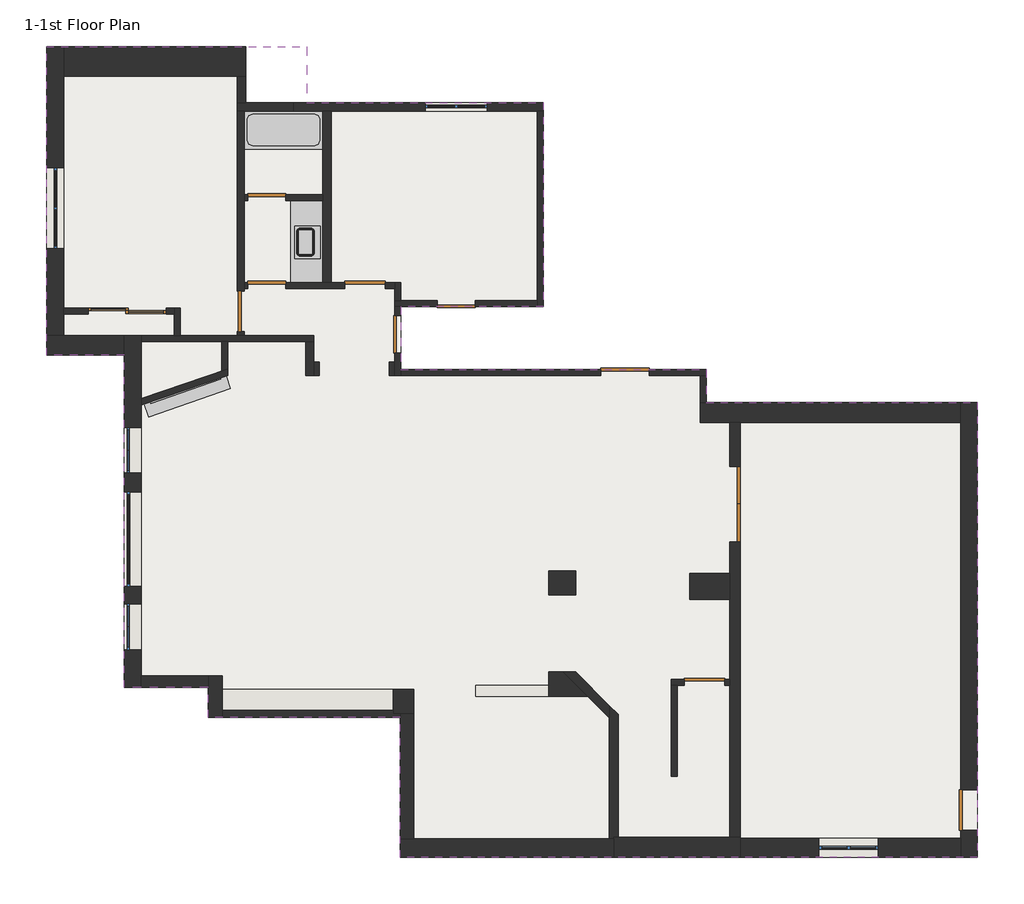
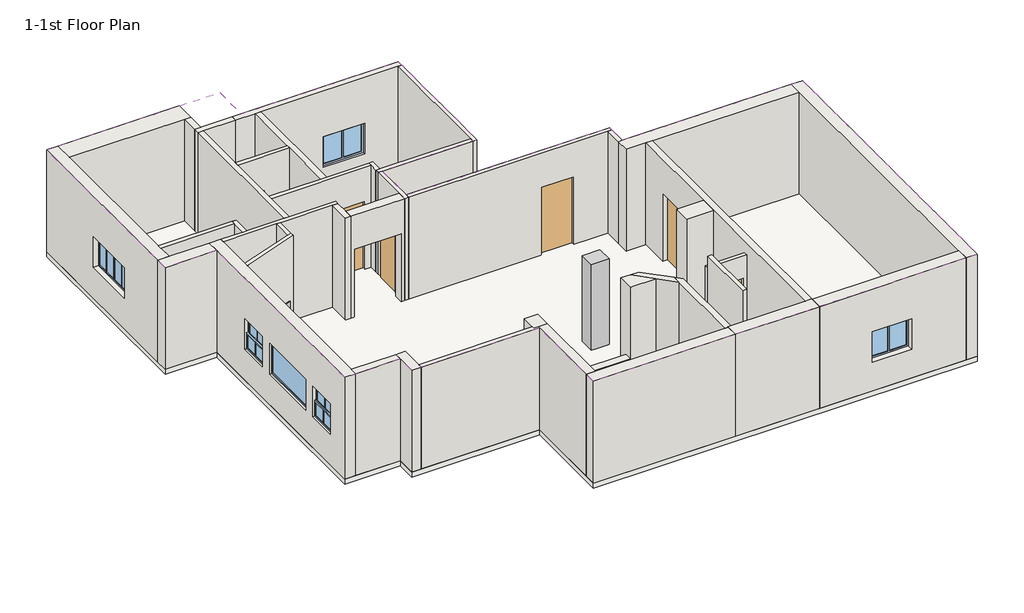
# One storey, incomplete: 43 walls, 11 doors, 6 windows, 2 flow terminals, 1 column, 1 covering, 1 furniture element, 1 proxy, 1 slab.
"""IFC4 building model written with IfcOpenShell, lengths in millimetres."""

from ifc_helpers import new_model, si_unit, frame, origin, origin_with_axes, place, context, project, spatial, polyline, outline, extrude, faceted_brep, transform, mapped, element, save
from components import generic_models_5_generic_models_5_6d1e31e7, columns_1_columns_1_5ad2784a, door_64bc458f, door_8a6e924b, door_ae451de5, door_2ad2c74c, door_949120a3, door_eaf6c470, door_1eac47e7, door_902f0b21, door_1fb80474, c_bathtub_c_bathtub_2_94195e66, c_kitchen_sink_single1_c_kitchen_sink_single_2_c5aafde7, window_c256d3ea, window_8184cf6b, window_6ee6a00c, window_1a2cd0af, window_898dd9ae, window_491ab510

model = new_model("IFC4")

# Units and contexts
model_context = context("Model", 3, world=origin())
ifc_project = project(units=[si_unit("LENGTHUNIT", "METRE", prefix="MILLI")], contexts=[model_context])

# Site, building, storey
site = spatial("IfcSite", under=ifc_project)
building = spatial("IfcBuilding", under=site)
storey = spatial("IfcBuildingStorey", under=building, Name="1-1st Floor Plan", Elevation=0.0)

# Proxy
placement = place(None, origin())
generic_models_5_generic_models_5_shape = generic_models_5_generic_models_5_6d1e31e7(model_context)
element("IfcBuildingElementProxy", 1, Name="Generic Models 5 : Generic Models 5", ObjectType="Generic Models 5 : Generic Models 5", at=placement, inside=storey, context=model_context, shape_type="MappedRepresentation", body=[
    mapped(generic_models_5_generic_models_5_shape, transform((0.0, 0.0, 0.0), x_axis=(1.0, 0.0, 0.0), y_axis=(0.0, 1.0, 0.0), z_axis=(0.0, 0.0, 1.0))),
])

# Column
columns_1_columns_1_shape = columns_1_columns_1_5ad2784a(model_context)
element("IfcColumn", 2, ObjectType="Columns 1 : Columns 1", at=placement, inside=storey, context=model_context, shape_type="MappedRepresentation", body=[
    mapped(columns_1_columns_1_shape, transform((0.0, 0.0, 0.0), x_axis=(1.0, 0.0, 0.0), y_axis=(0.0, 1.0, 0.0), z_axis=(0.0, 0.0, 1.0))),
])

# Covering
element("IfcCovering", 3, ObjectType="Ceiling_5.9\"", at=placement, inside=storey, context=model_context, shape_type="SweptSolid", body=[
    extrude(outline(polyline([(-6661.15, 9461.5), (-6661.15, 15278.1), (-1758.95, 15278.1), (-1758.95, 14224.0), (2692.4, 14224.0), (2692.4, 10375.9), (12.7, 10375.9), (12.7, 9194.8), (5765.8, 9194.8), (5765.8, 8572.5), (10871.2, 8572.5), (10871.2, 0.0), (0.0176056, 0.0), (0.0176056, 2641.6), (-3619.5, 2641.6), (-3619.5, 3200.4), (-5194.3, 3200.4), (-5194.3, 9461.5), (-6661.15, 9461.5)])), frame((0.0, 0.0, 3048.0), z_axis=(0.0, 0.0, 1.0), x_axis=(1.0, 0.0, 0.0)), (0.0, 0.0, 1.0), 150.0),
])

# Doors
door_shape = door_64bc458f(model_context)
element("IfcDoor", 4, ObjectType="Door_1 : 2'-4\" X 6'-8\"", at=placement, inside=storey, context=model_context, shape_type="MappedRepresentation", body=[
    mapped(door_shape, transform((-44.45, 9855.2, 0.0), x_axis=(0.0, -1.0, 0.0), y_axis=(1.0, 0.0, 0.0), z_axis=(0.0, 0.0, 1.0))),
])
element("IfcDoor", 5, ObjectType="Door_1 : 2'-4\" X 6'-8\"", at=placement, inside=storey, context=model_context, shape_type="MappedRepresentation", body=[
    mapped(door_shape, transform((-2514.6, 10775.95, 0.0), x_axis=(-1.0, 0.0, 0.0), y_axis=(0.0, -1.0, 0.0), z_axis=(0.0, 0.0, 1.0))),
])
element("IfcDoor", 6, ObjectType="Door_1 : 2'-4\" X 6'-8\"", at=placement, inside=storey, context=model_context, shape_type="MappedRepresentation", body=[
    mapped(door_shape, transform((-2514.6, 12426.95, 0.0), x_axis=(-1.0, 0.0, 0.0), y_axis=(0.0, -1.0, 0.0), z_axis=(0.0, 0.0, 1.0))),
])
door_2_shape = door_8a6e924b(model_context)
element("IfcDoor", 7, ObjectType="Door_1 : 2'-4\" X 6'-8\"", at=placement, inside=storey, context=model_context, shape_type="MappedRepresentation", body=[
    mapped(door_2_shape, transform((1054.1, 10433.05, 0.0), x_axis=(-1.0, 0.0, 0.0), y_axis=(0.0, -1.0, 0.0), z_axis=(0.0, 0.0, 1.0))),
])
door_3_shape = door_ae451de5(model_context)
element("IfcDoor", 8, ObjectType="Door_1 : 2'-6\" X 6'-8\"", at=placement, inside=storey, context=model_context, shape_type="MappedRepresentation", body=[
    mapped(door_3_shape, transform((5727.7, 3295.65, 0.0), x_axis=(1.0, 0.0, 0.0), y_axis=(0.0, 1.0, 0.0), z_axis=(0.0, 0.0, 1.0))),
])
door_4_shape = door_2ad2c74c(model_context)
element("IfcDoor", 9, ObjectType="Door_1 : 2'-6\" X 6'-8\"", at=placement, inside=storey, context=model_context, shape_type="MappedRepresentation", body=[
    mapped(door_4_shape, transform((-660.4, 10775.95, 0.0), x_axis=(-1.0, 0.0, 0.0), y_axis=(0.0, -1.0, 0.0), z_axis=(0.0, 0.0, 1.0))),
])
door_5_shape = door_949120a3(model_context)
element("IfcDoor", 10, ObjectType="Door_1 : 2'-6\" X 6'-8\"", at=placement, inside=storey, context=model_context, shape_type="MappedRepresentation", body=[
    mapped(door_5_shape, transform((10712.45, 889.0, 0.0), x_axis=(0.0, -1.0, 0.0), y_axis=(1.0, 0.0, 0.0), z_axis=(0.0, 0.0, 1.0))),
])
door_6_shape = door_eaf6c470(model_context)
element("IfcDoor", 11, ObjectType="Door_1 : 3'-0\" X 6'-8\"", at=placement, inside=storey, context=model_context, shape_type="MappedRepresentation", body=[
    mapped(door_6_shape, transform((4229.1, 9137.65, 0.0), x_axis=(1.0, 0.0, 0.0), y_axis=(0.0, 1.0, 0.0), z_axis=(0.0, 0.0, 1.0))),
])
door_7_shape = door_1eac47e7(model_context)
element("IfcDoor", 12, ObjectType="Door_2 : 4'-8\" X 6'-8\"", at=placement, inside=storey, context=model_context, shape_type="MappedRepresentation", body=[
    mapped(door_7_shape, transform((6305.55, 6654.8, 0.0), x_axis=(0.0, -1.0, 0.0), y_axis=(1.0, 0.0, 0.0), z_axis=(0.0, 0.0, 1.0))),
])
door_8_shape = door_902f0b21(model_context)
element("IfcDoor", 13, ObjectType="Door_3 : 4'-10\" X 6'-8\"", at=placement, inside=storey, context=model_context, shape_type="MappedRepresentation", body=[
    mapped(door_8_shape, transform((-5143.5, 10166.35, 0.0), x_axis=(1.0, 0.0, 0.0), y_axis=(0.0, 1.0, 0.0), z_axis=(0.0, 0.0, 1.0))),
])
door_9_shape = door_1fb80474(model_context)
element("IfcDoor", 14, ObjectType="Door_4 : 2'-6\" X 6'-8\"", at=placement, inside=storey, context=model_context, shape_type="MappedRepresentation", body=[
    mapped(door_9_shape, transform((-3006.725, 10287.0, 0.0), x_axis=(0.0, -1.0, 0.0), y_axis=(1.0, 0.0, 0.0), z_axis=(0.0, 0.0, 1.0))),
])

# Flow terminals
c_bathtub_c_bathtub_2_shape = c_bathtub_c_bathtub_2_94195e66(model_context)
element("IfcFlowTerminal", 15, ObjectType="C_Bathtub : C_Bathtub 2", at=placement, inside=storey, context=model_context, shape_type="MappedRepresentation", body=[
    mapped(c_bathtub_c_bathtub_2_shape, transform((-1460.5, 13347.7, 0.0), x_axis=(0.0, 1.0, 0.0), y_axis=(-1.0, 0.0, 0.0), z_axis=(0.0, 0.0, 1.0))),
])
c_kitchen_sink_single1_c_kitchen_sink_single_2_shape = c_kitchen_sink_single1_c_kitchen_sink_single_2_c5aafde7(model_context)
element("IfcFlowTerminal", 16, ObjectType="C_Kitchen Sink Single1 : C_Kitchen Sink Single 2", at=placement, inside=storey, context=model_context, shape_type="MappedRepresentation", body=[
    mapped(c_kitchen_sink_single1_c_kitchen_sink_single_2_shape, transform((-1748.5954011, 11388.5392406, 825.5), x_axis=(0.0, -1.0, 0.0), y_axis=(1.0, 0.0, 0.0), z_axis=(0.0, 0.0, 1.0))),
])

# Furniture
element("IfcFurniture", 17, ObjectType="C_Counter Top Linear (without skirting)1 : C_Counter Top Linear (without skirting) 2", at=placement, inside=storey, context=model_context, shape_type="SweptSolid", body=[
    extrude(outline(polyline([(-2057.4, 10833.1), (-2057.4, 12369.8), (-1460.5, 12369.8), (-1460.5, 10833.1), (-2057.4, 10833.1)]), holes=[polyline([(-1987.55, 11893.55), (-1987.55, 11283.95), (-1504.95, 11283.95), (-1504.95, 11893.55), (-1987.55, 11893.55)])]), frame((0.0, 0.0, 812.8), z_axis=(0.0, 0.0, 1.0), x_axis=(1.0, 0.0, 0.0)), (0.0, 0.0, 1.0), 25.4),
])

# Slab
element("IfcSlab", 18, ObjectType="Floor:Floor_5.9\"", at=placement, inside=storey, context=model_context, shape_type="SweptSolid", body=[
    extrude(outline(polyline([(-6661.15, 9461.5), (-6661.15, 15278.1), (-2908.3, 15278.1), (-2908.3, 14224.0), (2692.4, 14224.0), (2692.4, 10375.9), (12.7, 10375.9), (12.7, 9194.8), (5765.8, 9194.8), (5765.8, 8572.5), (10871.2, 8572.5), (10871.2, 0.0), (0.0176056, 0.0), (0.0176056, 2641.6), (-3619.5, 2641.6), (-3619.5, 3200.4), (-5194.3, 3200.4), (-5194.3, 9461.5), (-6661.15, 9461.5)])), frame((0.0, 0.0, -150.01875), z_axis=(0.0, 0.0, 1.0), x_axis=(1.0, 0.0, 0.0)), (0.0, 0.0, 1.0), 150.01875),
])

# Walls
element("IfcWall", 19, ObjectType="Wall_1' 1 3/4\"", at=placement, inside=storey, context=model_context, shape_type="Brep", body=[
    faceted_brep([(4019.5496704, 349.25, 0.0), (3936.9996704, 349.25, 0.0), (254.0176056, 349.25, 0.0), (0.0176056, 349.25, 0.0), (0.0176056, 349.25, 3048.0), (254.0176056, 349.25, 3048.0), (3936.9996704, 349.25, 3048.0), (4019.5496704, 349.25, 3048.0), (4019.5496704, 0.0, 0.0), (4019.5496704, 0.0, 3048.0), (0.0176056, 0.0, 3048.0), (0.0176056, 0.0, 0.0)], [[[0, 1, 2, 3, 4, 5, 6, 7]], [[8, 9, 10, 11]], [[3, 2, 1, 0, 8, 11]], [[7, 6, 5, 4, 10, 9]], [[0, 7, 9, 8]], [[4, 3, 11, 10]]]),
])
element("IfcWall", 20, ObjectType="Wall_1' 10\"", at=placement, inside=storey, context=model_context, shape_type="Brep", body=[
    faceted_brep([(-2908.3, 15278.1, 0.0), (-6337.3, 15278.1, 0.0), (-6337.3, 15278.1, 3048.0), (-2908.3, 15278.1, 3048.0), (-2908.3, 14719.3, 0.0), (-2908.3, 14719.3, 3048.0), (-3073.4, 14719.3, 3048.0), (-6337.3, 14719.3, 3048.0), (-6337.3, 14719.3, 0.0), (-3073.4, 14719.3, 0.0)], [[[0, 1, 2, 3]], [[4, 5, 6, 7, 8, 9]], [[1, 0, 4, 9, 8]], [[3, 2, 7, 6, 5]], [[2, 1, 8, 7]], [[0, 3, 5, 4]]]),
])
element("IfcWall", 21, ObjectType="Wall_1' 2 1/2\"", at=placement, inside=storey, context=model_context, shape_type="Brep", body=[
    faceted_brep([(-5194.3, 9829.8, 0.0), (-6337.3, 9829.8, 0.0), (-6661.15, 9829.8, 0.0), (-6661.15, 9829.8, 3048.0), (-6337.3, 9829.8, 3048.0), (-5194.3, 9829.8, 3048.0), (-5194.3, 9461.5, 0.0), (-5194.3, 9461.5, 3048.0), (-6661.15, 9461.5, 3048.0), (-6661.15, 9461.5, 0.0)], [[[0, 1, 2, 3, 4, 5]], [[6, 7, 8, 9]], [[2, 1, 0, 6, 9]], [[5, 4, 3, 8, 7]], [[0, 5, 7, 6]], [[3, 2, 9, 8]]]),
])
element("IfcWall", 22, ObjectType="Wall_1' 3 1/2\"", at=placement, inside=storey, context=model_context, shape_type="SweptSolid", body=[
    extrude(outline(polyline([(-3352.8, 3162.3), (-127.0, 3162.3), (-127.0, 2768.6), (-3352.8, 2768.6), (-3352.8, 3162.3)])), origin_with_axes(), (0.0, 0.0, 1.0), 304.8),
])
element("IfcWall", 23, ObjectType="Wall_1' 3/4\"", at=placement, inside=storey, context=model_context, shape_type="Brep", body=[
    faceted_brep([(-6337.3, 9829.8, 0.0), (-6337.3, 10236.2, 0.0), (-6337.3, 10350.5, 0.0), (-6337.3, 14719.3, 0.0), (-6337.3, 15278.1, 0.0), (-6337.3, 15278.1, 3048.0), (-6337.3, 14719.3, 3048.0), (-6337.3, 10350.5, 3048.0), (-6337.3, 10236.2, 3048.0), (-6337.3, 9829.8, 3048.0), (-6337.3, 11468.1, 1828.8), (-6337.3, 12992.1, 1828.8), (-6337.3, 12992.1, 914.4), (-6337.3, 11468.1, 914.4), (-6661.15, 9829.8, 0.0), (-6661.15, 9829.8, 3048.0), (-6661.15, 15278.1, 3048.0), (-6661.15, 15278.1, 0.0), (-6661.15, 11468.1, 1828.8), (-6661.15, 11468.1, 914.4), (-6661.15, 12992.1, 914.4), (-6661.15, 12992.1, 1828.8)], [[[0, 1, 2, 3, 4, 5, 6, 7, 8, 9], [10, 11, 12, 13]], [[14, 15, 16, 17], [18, 19, 20, 21]], [[4, 3, 2, 1, 0, 14, 17]], [[9, 8, 7, 6, 5, 16, 15]], [[0, 9, 15, 14]], [[5, 4, 17, 16]], [[19, 18, 10, 13]], [[20, 19, 13, 12]], [[21, 20, 12, 11]], [[18, 21, 11, 10]]]),
])
element("IfcWall", 24, ObjectType="Wall_1'1/2\"", at=placement, inside=storey, context=model_context, shape_type="Brep", body=[
    faceted_brep([(10871.2, 0.0, 0.0), (10871.2, 508.0, 0.0), (10871.2, 508.0, 2032.0), (10871.2, 1270.0, 2032.0), (10871.2, 1270.0, 0.0), (10871.2, 8572.5, 0.0), (10871.2, 8572.5, 3048.0), (10871.2, 0.0, 3048.0), (10553.7, 508.0, 2032.0), (10553.7, 508.0, 0.0), (10553.7, 355.6, 0.0), (10553.7, 0.0, 0.0), (10553.7, 0.0, 3048.0), (10553.7, 355.6, 3048.0), (10553.7, 8191.5, 3048.0), (10553.7, 8572.5, 3048.0), (10553.7, 8572.5, 0.0), (10553.7, 8191.5, 0.0), (10553.7, 1270.0, 0.0), (10553.7, 1270.0, 2032.0)], [[[0, 1, 2, 3, 4, 5, 6, 7]], [[8, 9, 10, 11, 12, 13, 14, 15, 16, 17, 18, 19]], [[11, 10, 9, 1, 0]], [[18, 17, 16, 5, 4]], [[7, 6, 15, 14, 13, 12]], [[6, 5, 16, 15]], [[0, 7, 12, 11]], [[2, 1, 9, 8]], [[3, 2, 8, 19]], [[4, 3, 19, 18]]]),
])
element("IfcWall", 25, ObjectType="Wall_1'1/2\"", at=placement, inside=storey, context=model_context, shape_type="Brep", body=[
    faceted_brep([(-5194.3, 9829.8, 0.0), (-5194.3, 9461.5, 0.0), (-5194.3, 3200.4, 0.0), (-5194.3, 3200.4, 3048.0), (-5194.3, 9461.5, 3048.0), (-5194.3, 9829.8, 3048.0), (-5194.3, 3911.6, 1828.8), (-5194.3, 3911.6, 914.4), (-5194.3, 4775.2, 914.4), (-5194.3, 4775.2, 1828.8), (-5194.3, 6883.4, 1828.8), (-5194.3, 5105.4, 1828.8), (-5194.3, 5105.4, 914.4), (-5194.3, 6883.4, 914.4), (-5194.3, 8102.6, 1828.8), (-5194.3, 7239.0, 1828.8), (-5194.3, 7239.0, 914.4), (-5194.3, 8102.6, 914.4), (-4876.8, 9829.8, 0.0), (-4876.8, 9829.8, 3048.0), (-4876.8, 9715.5, 3048.0), (-4876.8, 8642.5645656, 3048.0), (-4876.8, 8521.7, 3048.0), (-4876.8, 3416.3, 3048.0), (-4876.8, 3200.4, 3048.0), (-4876.8, 3200.4, 0.0), (-4876.8, 3416.3, 0.0), (-4876.8, 8521.7, 0.0), (-4876.8, 8642.5645656, 0.0), (-4876.8, 9715.5, 0.0), (-4876.8, 3911.6, 1828.8), (-4876.8, 4775.2, 1828.8), (-4876.8, 4775.2, 914.4), (-4876.8, 3911.6, 914.4), (-4876.8, 6883.4, 1828.8), (-4876.8, 6883.4, 914.4), (-4876.8, 5105.4, 914.4), (-4876.8, 5105.4, 1828.8), (-4876.8, 8102.6, 1828.8), (-4876.8, 8102.6, 914.4), (-4876.8, 7239.0, 914.4), (-4876.8, 7239.0, 1828.8)], [[[0, 1, 2, 3, 4, 5], [6, 7, 8, 9], [10, 11, 12, 13], [14, 15, 16, 17]], [[18, 19, 20, 21, 22, 23, 24, 25, 26, 27, 28, 29], [30, 31, 32, 33], [34, 35, 36, 37], [38, 39, 40, 41]], [[2, 1, 0, 18, 29, 28, 27, 26, 25]], [[5, 4, 3, 24, 23, 22, 21, 20, 19]], [[3, 2, 25, 24]], [[0, 5, 19, 18]], [[7, 6, 30, 33]], [[8, 7, 33, 32]], [[9, 8, 32, 31]], [[6, 9, 31, 30]], [[35, 34, 10, 13]], [[36, 35, 13, 12]], [[37, 36, 12, 11]], [[34, 37, 11, 10]], [[39, 38, 14, 17]], [[40, 39, 17, 16]], [[41, 40, 16, 15]], [[38, 41, 15, 14]]]),
])
element("IfcWall", 26, ObjectType="Wall_1'2\"", at=placement, inside=storey, context=model_context, shape_type="SweptSolid", body=[
    extrude(outline(polyline([(0.0, 10553.7), (3048.0, 10553.7), (3048.0, 6400.8), (0.0, 6400.8), (0.0, 10553.7)]), holes=[polyline([(1778.0, 7886.7), (1778.0, 9004.3), (863.6, 9004.3), (863.6, 7886.7), (1778.0, 7886.7)])]), frame((0.0, 0.0, 0.0), z_axis=(0.0, 1.0, 0.0), x_axis=(0.0, 0.0, 1.0)), (0.0, 0.0, 1.0), 355.6),
])
element("IfcWall", 27, ObjectType="Wall_1'3\"", at=placement, inside=storey, context=model_context, shape_type="Brep", body=[
    faceted_brep([(10553.7, 8572.5, 0.0), (5765.8, 8572.5, 0.0), (5651.5, 8572.5, 0.0), (5651.5, 8572.5, 3048.0), (5765.8, 8572.5, 3048.0), (10553.7, 8572.5, 3048.0), (10553.7, 8191.5, 0.0), (10553.7, 8191.5, 3048.0), (6400.8, 8191.5, 3048.0), (6210.3, 8191.5, 3048.0), (5651.5, 8191.5, 3048.0), (5651.5, 8191.5, 0.0), (6210.3, 8191.5, 0.0), (6400.8, 8191.5, 0.0)], [[[0, 1, 2, 3, 4, 5]], [[6, 7, 8, 9, 10, 11, 12, 13]], [[2, 1, 0, 6, 13, 12, 11]], [[5, 4, 3, 10, 9, 8, 7]], [[0, 5, 7, 6]], [[3, 2, 11, 10]]]),
])
element("IfcWall", 28, ObjectType="Wall_1'3\"", at=placement, inside=storey, context=model_context, shape_type="Brep", body=[
    faceted_brep([(6400.8, 381.0, 0.0), (6210.3, 381.0, 0.0), (4102.0996704, 381.0, 0.0), (4019.5496704, 381.0, 0.0), (4019.5496704, 381.0, 3048.0), (4102.0996704, 381.0, 3048.0), (6210.3, 381.0, 3048.0), (6400.8, 381.0, 3048.0), (6400.8, 0.0, 0.0), (6400.8, 0.0, 3048.0), (4019.5496704, 0.0, 3048.0), (4019.5496704, 0.0, 0.0), (6400.8, 355.6, 0.0), (4019.5496704, 349.25, 0.0), (4019.5496704, 349.25, 3048.0), (6400.8, 355.6, 3048.0)], [[[0, 1, 2, 3, 4, 5, 6, 7]], [[8, 9, 10, 11]], [[3, 2, 1, 0, 12, 8, 11, 13]], [[4, 3, 13, 11, 10, 14]], [[7, 6, 5, 4, 14, 10, 9, 15]], [[0, 7, 15, 9, 8, 12]]]),
])
element("IfcWall", 29, ObjectType="Wall_1'3\"", at=placement, inside=storey, context=model_context, shape_type="Brep", body=[
    faceted_brep([(-127.0, 3162.3, 0.0), (-127.0, 2768.6, 0.0), (-127.0, 2705.1, 0.0), (-127.0, 2705.1, 3048.0), (-127.0, 2768.6, 3048.0), (-127.0, 3162.3, 3048.0), (-127.0, 3162.3, 304.8), (254.0, 3162.3, 0.0), (254.0, 3162.3, 3048.0), (254.0, 2705.1, 3048.0), (254.0, 2705.1, 0.0), (0.0176056, 2705.1, 0.0), (0.0176056, 2705.1, 3048.0)], [[[0, 1, 2, 3, 4, 5, 6]], [[7, 8, 9, 10]], [[2, 1, 0, 7, 10, 11]], [[3, 2, 11, 10, 9, 12]], [[5, 4, 3, 12, 9, 8]], [[0, 6, 5, 8, 7]]]),
])
element("IfcWall", 30, ObjectType="Wall_1'6\"", at=placement, inside=storey, context=model_context, shape_type="Brep", body=[
    faceted_brep([(3068.5087169, 3492.5046239, 0.0), (2794.0, 3492.5046239, 0.0), (2794.0, 3492.5046239, 3048.0), (3068.5087169, 3492.5046239, 3048.0), (3525.7087169, 3035.3046239, 0.0), (3525.7087169, 3035.3046239, 3048.0), (2794.0, 3035.3046239, 3048.0), (2794.0, 3035.3046239, 914.4), (2794.0, 3035.3046239, 0.0), (2794.0, 3238.5176056, 0.0)], [[[0, 1, 2, 3]], [[4, 5, 6, 7, 8]], [[1, 0, 4, 8, 9]], [[2, 1, 9, 8, 7, 6]], [[3, 2, 6, 5]], [[0, 3, 5, 4]]]),
])
element("IfcWall", 31, ObjectType="Wall_1'7\"", at=placement, inside=storey, context=model_context, shape_type="SweptSolid", body=[
    extrude(outline(polyline([(6210.3, 4864.1), (5448.3, 4864.1), (5448.3, 5346.7), (6210.3, 5346.7), (6210.3, 4864.1)])), origin_with_axes(), (0.0, 0.0, 1.0), 3048.0),
])
element("IfcWall", 32, ObjectType="Wall_10\"", at=placement, inside=storey, context=model_context, shape_type="Brep", body=[
    faceted_brep([(254.0176056, 349.25, 0.0), (254.0176056, 2705.1, 0.0), (254.0176056, 2705.1, 3048.0), (254.0176056, 349.25, 3048.0), (0.0176056, 349.25, 0.0), (0.0176056, 349.25, 3048.0), (0.0176056, 2641.6, 3048.0), (0.0176056, 2705.1, 3048.0), (0.0176056, 2705.1, 0.0), (0.0176056, 2641.6, 0.0)], [[[0, 1, 2, 3]], [[4, 5, 6, 7, 8, 9]], [[1, 0, 4, 9, 8]], [[2, 1, 8, 7]], [[3, 2, 7, 6, 5]], [[0, 3, 5, 4]]]),
])
element("IfcWall", 33, ObjectType="Wall_10\"", at=placement, inside=storey, context=model_context, shape_type="SweptSolid", body=[
    extrude(outline(polyline([(2032.0, -203.2), (0.0, -203.2), (0.0, -101.6), (3048.0, -101.6), (3048.0, -1625.6), (0.0, -1625.6), (0.0, -1524.0), (2032.0, -1524.0), (2032.0, -203.2)])), frame((0.0, 9080.5, 0.0), z_axis=(0.0, 1.0, 0.0), x_axis=(0.0, 0.0, 1.0)), (0.0, 0.0, 1.0), 254.0),
])
element("IfcWall", 34, ObjectType="Wall_10.5\"", at=placement, inside=storey, context=model_context, shape_type="Brep", body=[
    faceted_brep([(-3352.8, 2641.6, 0.0), (-3352.8, 2768.6, 0.0), (-3352.8, 3162.3, 0.0), (-3352.8, 3416.3, 0.0), (-3352.8, 3416.3, 3048.0), (-3352.8, 2768.6, 3048.0), (-3352.8, 2641.6, 3048.0), (-3619.5, 2641.6, 0.0), (-3619.5, 2641.6, 3048.0), (-3619.5, 3200.4, 3048.0), (-3619.5, 3416.3, 3048.0), (-3619.5, 3416.3, 0.0), (-3619.5, 3200.4, 0.0)], [[[0, 1, 2, 3, 4, 5, 6]], [[7, 8, 9, 10, 11, 12]], [[3, 2, 1, 0, 7, 12, 11]], [[6, 5, 4, 10, 9, 8]], [[0, 6, 8, 7]], [[4, 3, 11, 10]]]),
])
element("IfcWall", 35, ObjectType="Wall_4.5\"", at=placement, inside=storey, context=model_context, shape_type="Brep", body=[
    faceted_brep([(2692.4, 10375.9, 0.0), (2692.4, 14058.9, 0.0), (2692.4, 14058.9, 3048.0), (2692.4, 10375.9, 3048.0), (2578.1, 10375.9, 0.0), (2578.1, 10375.9, 3048.0), (2578.1, 10490.2, 3048.0), (2578.1, 14058.9, 3048.0), (2578.1, 14058.9, 0.0), (2578.1, 10490.2, 0.0)], [[[0, 1, 2, 3]], [[4, 5, 6, 7, 8, 9]], [[1, 0, 4, 9, 8]], [[3, 2, 7, 6, 5]], [[2, 1, 8, 7]], [[0, 3, 5, 4]]]),
])
element("IfcWall", 36, ObjectType="Wall_4.5\"", at=placement, inside=storey, context=model_context, shape_type="Brep", body=[
    faceted_brep([(698.5, 10490.2, 2032.0), (698.5, 10490.2, 0.0), (12.7, 10490.2, 0.0), (-101.6, 10490.2, 0.0), (-101.6, 10490.2, 3048.0), (12.7, 10490.2, 3048.0), (2578.1, 10490.2, 3048.0), (2578.1, 10490.2, 0.0), (1409.7, 10490.2, 0.0), (1409.7, 10490.2, 2032.0), (-101.6, 10375.9, 0.0), (12.7, 10375.9, 0.0), (698.5, 10375.9, 0.0), (698.5, 10375.9, 2032.0), (1409.7, 10375.9, 2032.0), (1409.7, 10375.9, 0.0), (2578.1, 10375.9, 0.0), (2578.1, 10375.9, 3048.0), (12.7, 10375.9, 3048.0), (-101.6, 10375.9, 3048.0)], [[[0, 1, 2, 3, 4, 5, 6, 7, 8, 9]], [[10, 11, 12, 13, 14, 15, 16, 17, 18, 19]], [[8, 7, 16, 15]], [[3, 2, 1, 12, 11, 10]], [[6, 5, 4, 19, 18, 17]], [[4, 3, 10, 19]], [[7, 6, 17, 16]], [[13, 12, 1, 0]], [[14, 13, 0, 9]], [[15, 14, 9, 8]]]),
])
element("IfcWall", 37, ObjectType="Wall_4.5\"", at=placement, inside=storey, context=model_context, shape_type="Brep", body=[
    faceted_brep([(-101.6, 9499.6, 2032.0), (-101.6, 9499.6, 0.0), (-101.6, 9334.5, 0.0), (-101.6, 9080.5, 0.0), (-101.6, 9080.5, 3048.0), (-101.6, 9334.5, 3048.0), (-101.6, 10375.9, 3048.0), (-101.6, 10375.9, 0.0), (-101.6, 10210.8, 0.0), (-101.6, 10210.8, 2032.0), (12.7, 9080.5, 0.0), (12.7, 9194.8, 0.0), (12.7, 9499.6, 0.0), (12.7, 9499.6, 2032.0), (12.7, 10210.8, 2032.0), (12.7, 10210.8, 0.0), (12.7, 10375.9, 0.0), (12.7, 10375.9, 3048.0), (12.7, 9194.8, 3048.0), (12.7, 9080.5, 3048.0)], [[[0, 1, 2, 3, 4, 5, 6, 7, 8, 9]], [[10, 11, 12, 13, 14, 15, 16, 17, 18, 19]], [[8, 7, 16, 15]], [[3, 2, 1, 12, 11, 10]], [[6, 5, 4, 19, 18, 17]], [[7, 6, 17, 16]], [[4, 3, 10, 19]], [[13, 12, 1, 0]], [[14, 13, 0, 9]], [[15, 14, 9, 8]]]),
])
element("IfcWall", 38, ObjectType="Wall_4.5\"", at=placement, inside=storey, context=model_context, shape_type="Brep", body=[
    faceted_brep([(4686.3, 9080.5, 2032.0), (4686.3, 9080.5, 0.0), (5651.5, 9080.5, 0.0), (5765.8, 9080.5, 0.0), (5765.8, 9080.5, 3048.0), (5651.5, 9080.5, 3048.0), (12.7, 9080.5, 3048.0), (12.7, 9080.5, 0.0), (3771.9, 9080.5, 0.0), (3771.9, 9080.5, 2032.0), (5765.8, 9194.8, 0.0), (4686.3, 9194.8, 0.0), (4686.3, 9194.8, 2032.0), (3771.9, 9194.8, 2032.0), (3771.9, 9194.8, 0.0), (12.7, 9194.8, 0.0), (12.7, 9194.8, 3048.0), (5765.8, 9194.8, 3048.0)], [[[0, 1, 2, 3, 4, 5, 6, 7, 8, 9]], [[10, 11, 12, 13, 14, 15, 16, 17]], [[8, 7, 15, 14]], [[3, 2, 1, 11, 10]], [[6, 5, 4, 17, 16]], [[7, 6, 16, 15]], [[4, 3, 10, 17]], [[12, 11, 1, 0]], [[13, 12, 0, 9]], [[14, 13, 9, 8]]]),
])
element("IfcWall", 39, ObjectType="Wall_4.5\"", at=placement, inside=storey, context=model_context, shape_type="SweptSolid", body=[
    extrude(outline(polyline([(5651.5, 8572.5), (5651.5, 9080.5), (5765.8, 9080.5), (5765.8, 8572.5), (5651.5, 8572.5)])), origin_with_axes(), (0.0, 0.0, 1.0), 3048.0),
])
element("IfcWall", 40, ObjectType="Wall_4.5\"", at=placement, inside=storey, context=model_context, shape_type="Brep", body=[
    faceted_brep([(6210.3, 3352.8, 0.0), (6108.7, 3352.8, 0.0), (6108.7, 3352.8, 2032.0), (5346.7, 3352.8, 2032.0), (5346.7, 3352.8, 0.0), (5105.4, 3352.8, 0.0), (5105.4, 3352.8, 2694.6), (6210.3, 3352.8, 2694.6), (6108.7, 3238.5, 2032.0), (6108.7, 3238.5, 0.0), (6210.3, 3238.5, 0.0), (6210.3, 3238.5, 2694.6), (5105.4, 3238.5, 2694.6), (5105.4, 3238.5, 0.0), (5219.7, 3238.5, 0.0), (5346.7, 3238.5, 0.0), (5346.7, 3238.5, 2032.0)], [[[0, 1, 2, 3, 4, 5, 6, 7]], [[8, 9, 10, 11, 12, 13, 14, 15, 16]], [[10, 9, 1, 0]], [[15, 14, 13, 5, 4]], [[7, 6, 12, 11]], [[0, 7, 11, 10]], [[6, 5, 13, 12]], [[2, 1, 9, 8]], [[3, 2, 8, 16]], [[4, 3, 16, 15]]]),
])
element("IfcWall", 41, ObjectType="Wall_4.5\"", at=placement, inside=storey, context=model_context, shape_type="Brep", body=[
    faceted_brep([(5105.4, 3238.5, 0.0), (5105.4, 1524.0, 0.0), (5105.4, 1524.0, 3048.0), (5105.4, 3238.5, 3048.0), (5105.4, 3238.5, 2694.6), (5219.7, 3238.5, 0.0), (5219.7, 3238.5, 3048.0), (5219.7, 1524.0, 3048.0), (5219.7, 1524.0, 0.0)], [[[0, 1, 2, 3, 4]], [[5, 6, 7, 8]], [[1, 0, 5, 8]], [[2, 1, 8, 7]], [[3, 2, 7, 6]], [[0, 4, 3, 6, 5]]]),
])
element("IfcWall", 42, ObjectType="Wall_4.5\"", at=placement, inside=storey, context=model_context, shape_type="Brep", body=[
    faceted_brep([(-3251.2, 9201.3645656, 0.0), (-3365.5, 9162.0739406, 0.0), (-4876.8, 8642.5645656, 0.0), (-4876.8, 8642.5645656, 3048.0), (-3365.5, 9162.0739406, 3048.0), (-3251.2, 9201.3645656, 3048.0), (-4876.8, 8521.7, 0.0), (-3251.2, 9080.5, 0.0), (-3251.2, 9080.5, 3048.0), (-4876.8, 8521.7, 3048.0)], [[[0, 1, 2, 3, 4, 5]], [[6, 7, 8, 9]], [[2, 1, 0, 7, 6]], [[5, 4, 3, 9, 8]], [[3, 2, 6, 9]], [[0, 5, 8, 7]]]),
])
element("IfcWall", 43, ObjectType="Wall_4.5\"", at=placement, inside=storey, context=model_context, shape_type="SweptSolid", body=[
    extrude(outline(polyline([(-3251.2, 9715.5), (-3251.2, 9201.3645656), (-3365.5, 9162.0739406), (-3365.5, 9715.5), (-3251.2, 9715.5)])), origin_with_axes(), (0.0, 0.0, 1.0), 3048.0),
])
element("IfcWall", 44, ObjectType="Wall_4.5\"", at=placement, inside=storey, context=model_context, shape_type="Brep", body=[
    faceted_brep([(-4876.8, 9715.5, 0.0), (-3365.5, 9715.5, 0.0), (-3251.2, 9715.5, 0.0), (-1778.0, 9715.5, 0.0), (-1625.6, 9715.5, 0.0), (-1625.6, 9715.5, 3048.0), (-1778.0, 9715.5, 3048.0), (-3251.2, 9715.5, 3048.0), (-3365.5, 9715.5, 3048.0), (-4876.8, 9715.5, 3048.0), (-4876.8, 9829.8, 0.0), (-4876.8, 9829.8, 3048.0), (-4254.5, 9829.8, 3048.0), (-4140.2, 9829.8, 3048.0), (-3073.4, 9829.8, 3048.0), (-2933.7, 9829.8, 3048.0), (-1625.6, 9829.8, 3048.0), (-1625.6, 9829.8, 0.0), (-2933.7, 9829.8, 0.0), (-3073.4, 9829.8, 0.0), (-4140.2, 9829.8, 0.0), (-4254.5, 9829.8, 0.0)], [[[0, 1, 2, 3, 4, 5, 6, 7, 8, 9]], [[10, 11, 12, 13, 14, 15, 16, 17, 18, 19, 20, 21]], [[4, 3, 2, 1, 0, 10, 21, 20, 19, 18, 17]], [[9, 8, 7, 6, 5, 16, 15, 14, 13, 12, 11]], [[0, 9, 11, 10]], [[5, 4, 17, 16]]]),
])
element("IfcWall", 45, ObjectType="Wall_4.5\"", at=placement, inside=storey, context=model_context, shape_type="Brep", body=[
    faceted_brep([(12.7, 10490.2, 0.0), (12.7, 10833.1, 0.0), (12.7, 10833.1, 3048.0), (12.7, 10490.2, 3048.0), (-101.6, 10490.2, 0.0), (-101.6, 10490.2, 3048.0), (-101.6, 10718.8, 3048.0), (-101.6, 10833.1, 3048.0), (-101.6, 10833.1, 0.0), (-101.6, 10718.8, 0.0)], [[[0, 1, 2, 3]], [[4, 5, 6, 7, 8, 9]], [[1, 0, 4, 9, 8]], [[3, 2, 7, 6, 5]], [[0, 3, 5, 4]], [[2, 1, 8, 7]]]),
])
element("IfcWall", 46, ObjectType="Wall_4.5\"", at=placement, inside=storey, context=model_context, shape_type="Brep", body=[
    faceted_brep([(-2870.2, 10833.1, 2032.0), (-2870.2, 10833.1, 0.0), (-2933.7, 10833.1, 0.0), (-2933.7, 10833.1, 3048.0), (-1460.5, 10833.1, 3048.0), (-1295.4, 10833.1, 3048.0), (-101.6, 10833.1, 3048.0), (-101.6, 10833.1, 0.0), (-279.4, 10833.1, 0.0), (-279.4, 10833.1, 2032.0), (-1041.4, 10833.1, 2032.0), (-1041.4, 10833.1, 0.0), (-1295.4, 10833.1, 0.0), (-1460.5, 10833.1, 0.0), (-2159.0, 10833.1, 0.0), (-2159.0, 10833.1, 2032.0), (-2933.7, 10718.8, 0.0), (-2870.2, 10718.8, 0.0), (-2870.2, 10718.8, 2032.0), (-2159.0, 10718.8, 2032.0), (-2159.0, 10718.8, 0.0), (-1041.4, 10718.8, 0.0), (-1041.4, 10718.8, 2032.0), (-279.4, 10718.8, 2032.0), (-279.4, 10718.8, 0.0), (-101.6, 10718.8, 0.0), (-101.6, 10718.8, 3048.0), (-2933.7, 10718.8, 3048.0)], [[[0, 1, 2, 3, 4, 5, 6, 7, 8, 9, 10, 11, 12, 13, 14, 15]], [[16, 17, 18, 19, 20, 21, 22, 23, 24, 25, 26, 27]], [[8, 7, 25, 24]], [[2, 1, 17, 16]], [[14, 13, 12, 11, 21, 20]], [[6, 5, 4, 3, 27, 26]], [[7, 6, 26, 25]], [[3, 2, 16, 27]], [[22, 21, 11, 10]], [[23, 22, 10, 9]], [[24, 23, 9, 8]], [[18, 17, 1, 0]], [[19, 18, 0, 15]], [[20, 19, 15, 14]]]),
])
element("IfcWall", 47, ObjectType="Wall_4.5\"", at=placement, inside=storey, context=model_context, shape_type="SweptSolid", body=[
    extrude(outline(polyline([(0.0, -2933.7), (0.0, -2870.2), (2032.0, -2870.2), (2032.0, -2159.0), (0.0, -2159.0), (0.0, -1460.5), (3048.0, -1460.5), (3048.0, -2933.7), (0.0, -2933.7)])), frame((0.0, 12369.8, 0.0), z_axis=(0.0, 1.0, 0.0), x_axis=(0.0, 0.0, 1.0)), (0.0, 0.0, 1.0), 114.3),
])
element("IfcWall", 48, ObjectType="Wall_4.5\"", at=placement, inside=storey, context=model_context, shape_type="Brep", body=[
    faceted_brep([(-4140.2, 9829.8, 0.0), (-4140.2, 10350.5, 0.0), (-4140.2, 10350.5, 3048.0), (-4140.2, 9829.8, 3048.0), (-4254.5, 9829.8, 0.0), (-4254.5, 9829.8, 3048.0), (-4254.5, 10236.2, 3048.0), (-4254.5, 10350.5, 3048.0), (-4254.5, 10350.5, 0.0), (-4254.5, 10236.2, 0.0)], [[[0, 1, 2, 3]], [[4, 5, 6, 7, 8, 9]], [[1, 0, 4, 9, 8]], [[3, 2, 7, 6, 5]], [[0, 3, 5, 4]], [[2, 1, 8, 7]]]),
])
element("IfcWall", 49, ObjectType="Wall_4.5\"", at=placement, inside=storey, context=model_context, shape_type="SweptSolid", body=[
    extrude(outline(polyline([(2032.0, -4406.9), (0.0, -4406.9), (0.0, -4254.5), (3048.0, -4254.5), (3048.0, -6337.3), (0.0, -6337.3), (0.0, -5880.1), (2032.0, -5880.1), (2032.0, -4406.9)])), frame((0.0, 10236.2, 0.0), z_axis=(0.0, 1.0, 0.0), x_axis=(0.0, 0.0, 1.0)), (0.0, 0.0, 1.0), 114.3),
])
element("IfcWall", 50, ObjectType="Wall_5\"", at=placement, inside=storey, context=model_context, shape_type="SweptSolid", body=[
    extrude(outline(polyline([(-3352.8, 2768.6), (-127.0, 2768.6), (-127.0, 2705.1), (0.0176056, 2705.1), (0.0176056, 2641.6), (-3352.8, 2641.6), (-3352.8, 2768.6)])), origin_with_axes(), (0.0, 0.0, 1.0), 3048.0),
])
element("IfcWall", 51, ObjectType="Wall_5.5\"", at=placement, inside=storey, context=model_context, shape_type="Brep", body=[
    faceted_brep([(-3073.4, 9829.8, 3048.0), (-3073.4, 14058.9, 3048.0), (-3073.4, 14058.9, 0.0), (-3073.4, 10668.0, 0.0), (-3073.4, 10668.0, 2057.4), (-3073.4, 9906.0, 2057.4), (-3073.4, 9906.0, 0.0), (-3073.4, 9829.8, 0.0), (-2933.7, 14058.9, 3048.0), (-2933.7, 12484.1, 3048.0), (-2933.7, 12369.8, 3048.0), (-2933.7, 10833.1, 3048.0), (-2933.7, 10718.8, 3048.0), (-2933.7, 9829.8, 3048.0), (-2933.7, 9829.8, 0.0), (-2933.7, 9906.0, 0.0), (-2933.7, 9906.0, 2057.4), (-2933.7, 10668.0, 2057.4), (-2933.7, 10668.0, 0.0), (-2933.7, 10718.8, 0.0), (-2933.7, 10833.1, 0.0), (-2933.7, 12369.8, 0.0), (-2933.7, 12484.1, 0.0), (-2933.7, 14058.9, 0.0)], [[[0, 1, 2, 3, 4, 5, 6, 7]], [[8, 9, 10, 11, 12, 13, 14, 15, 16, 17, 18, 19, 20, 21, 22, 23]], [[14, 7, 6, 15]], [[2, 23, 22, 21, 20, 19, 18, 3]], [[1, 0, 13, 12, 11, 10, 9, 8]], [[0, 7, 14, 13]], [[5, 16, 15, 6]], [[16, 5, 4, 17]], [[17, 4, 3, 18]], [[2, 1, 8, 23]]]),
])
element("IfcWall", 52, ObjectType="Wall_6\"", at=placement, inside=storey, context=model_context, shape_type="Brep", body=[
    faceted_brep([(-1778.0, 9715.5, 0.0), (-1778.0, 9080.5, 0.0), (-1778.0, 9080.5, 3048.0), (-1778.0, 9715.5, 3048.0), (-1625.6, 9715.5, 0.0), (-1625.6, 9715.5, 3048.0), (-1625.6, 9334.5, 3048.0), (-1625.6, 9080.5, 3048.0), (-1625.6, 9080.5, 0.0), (-1625.6, 9334.5, 0.0)], [[[0, 1, 2, 3]], [[4, 5, 6, 7, 8, 9]], [[1, 0, 4, 9, 8]], [[3, 2, 7, 6, 5]], [[0, 3, 5, 4]], [[2, 1, 8, 7]]]),
])
element("IfcWall", 53, ObjectType="Wall_6.5\"", at=placement, inside=storey, context=model_context, shape_type="Brep", body=[
    faceted_brep([(4102.0996704, 381.0, 0.0), (4102.0996704, 2692.4003296, 0.0), (4102.0996704, 2692.4003296, 3048.0), (4102.0996704, 381.0, 3048.0), (3936.9996704, 349.25, 0.0), (3936.9996704, 349.25, 3048.0), (3936.9996704, 2624.0136704, 3048.0), (3936.9996704, 2857.5003296, 3048.0), (3936.9996704, 2857.5003296, 0.0), (3936.9996704, 2624.0136704, 0.0), (4019.5496704, 381.0, 0.0), (4019.5496704, 349.25, 0.0), (4019.5496704, 349.25, 3048.0), (4019.5496704, 381.0, 3048.0)], [[[0, 1, 2, 3]], [[4, 5, 6, 7, 8, 9]], [[1, 0, 10, 11, 4, 9, 8]], [[3, 2, 7, 6, 5, 12, 13]], [[0, 3, 13, 10]], [[13, 12, 11, 10]], [[12, 5, 4, 11]], [[2, 1, 8, 7]]]),
])
element("IfcWall", 54, ObjectType="Wall_6.5\"", at=placement, inside=storey, context=model_context, shape_type="Brep", body=[
    faceted_brep([(3936.9996704, 2857.5003296, 0.0), (3301.9953761, 3492.5046239, 0.0), (3301.9953761, 3492.5046239, 3048.0), (3936.9996704, 2857.5003296, 3048.0), (3936.9996704, 2624.0136704, 0.0), (3936.9996704, 2624.0136704, 3048.0), (3525.7087169, 3035.3046239, 3048.0), (3068.5087169, 3492.5046239, 3048.0), (3068.5087169, 3492.5046239, 0.0), (3525.7087169, 3035.3046239, 0.0)], [[[0, 1, 2, 3]], [[4, 5, 6, 7, 8, 9]], [[1, 0, 4, 9, 8]], [[3, 2, 7, 6, 5]], [[0, 3, 5, 4]], [[2, 1, 8, 7]]]),
])
element("IfcWall", 55, ObjectType="Wall_6.5\"", at=placement, inside=storey, context=model_context, shape_type="Brep", body=[
    faceted_brep([(2692.4, 14224.0, 0.0), (-2019.3, 14224.0, 0.0), (-2019.3, 14224.0, 3048.0), (2692.4, 14224.0, 3048.0), (1638.3, 14224.0, 1676.4), (469.9, 14224.0, 1676.4), (469.9, 14224.0, 762.0), (1638.3, 14224.0, 762.0), (2692.4, 14058.9, 0.0), (2692.4, 14058.9, 3048.0), (2578.1, 14058.9, 3048.0), (-1295.4, 14058.9, 3048.0), (-1460.5, 14058.9, 3048.0), (-2019.3, 14058.9, 3048.0), (-2019.3, 14058.9, 0.0), (-1460.5, 14058.9, 0.0), (-1295.4, 14058.9, 0.0), (2578.1, 14058.9, 0.0), (1638.3, 14058.9, 1676.4), (1638.3, 14058.9, 762.0), (469.9, 14058.9, 762.0), (469.9, 14058.9, 1676.4)], [[[0, 1, 2, 3], [4, 5, 6, 7]], [[8, 9, 10, 11, 12, 13, 14, 15, 16, 17], [18, 19, 20, 21]], [[1, 0, 8, 17, 16, 15, 14]], [[2, 1, 14, 13]], [[3, 2, 13, 12, 11, 10, 9]], [[0, 3, 9, 8]], [[19, 18, 4, 7]], [[20, 19, 7, 6]], [[21, 20, 6, 5]], [[18, 21, 5, 4]]]),
])
element("IfcWall", 56, ObjectType="Wall_6.5\"", at=placement, inside=storey, context=model_context, shape_type="SweptSolid", body=[
    extrude(outline(polyline([(-3073.4, 14224.0), (-3073.4, 14719.3), (-2908.3, 14719.3), (-2908.3, 14224.0), (-3073.4, 14224.0)])), origin_with_axes(), (0.0, 0.0, 1.0), 3048.0),
])
element("IfcWall", 57, ObjectType="Wall_6.5\"", at=placement, inside=storey, context=model_context, shape_type="Brep", body=[
    faceted_brep([(-1295.4, 10833.1, 0.0), (-1295.4, 14058.9, 0.0), (-1295.4, 14058.9, 3048.0), (-1295.4, 10833.1, 3048.0), (-1460.5, 10833.1, 0.0), (-1460.5, 10833.1, 3048.0), (-1460.5, 12369.8, 3048.0), (-1460.5, 12484.1, 3048.0), (-1460.5, 14058.9, 3048.0), (-1460.5, 14058.9, 0.0), (-1460.5, 12484.1, 0.0), (-1460.5, 12369.8, 0.0)], [[[0, 1, 2, 3]], [[4, 5, 6, 7, 8, 9, 10, 11]], [[1, 0, 4, 11, 10, 9]], [[3, 2, 8, 7, 6, 5]], [[2, 1, 9, 8]], [[0, 3, 5, 4]]]),
])
element("IfcWall", 58, ObjectType="Wall_6.5\"", at=placement, inside=storey, context=model_context, shape_type="Brep", body=[
    faceted_brep([(-2019.3, 14224.0, 0.0), (-2908.3, 14224.0, 0.0), (-3073.4, 14224.0, 0.0), (-3073.4, 14224.0, 3048.0), (-2908.3, 14224.0, 3048.0), (-2019.3, 14224.0, 3048.0), (-2019.3, 14058.9, 0.0), (-2019.3, 14058.9, 3048.0), (-2933.7, 14058.9, 3048.0), (-3073.4, 14058.9, 3048.0), (-3073.4, 14058.9, 0.0), (-2933.7, 14058.9, 0.0)], [[[0, 1, 2, 3, 4, 5]], [[6, 7, 8, 9, 10, 11]], [[2, 1, 0, 6, 11, 10]], [[5, 4, 3, 9, 8, 7]], [[0, 5, 7, 6]], [[3, 2, 10, 9]]]),
])
element("IfcWall", 59, ObjectType="Wall_7.5\"", at=placement, inside=storey, context=model_context, shape_type="Brep", body=[
    faceted_brep([(6400.8, 8191.5, 3048.0), (6400.8, 381.0, 3048.0), (6400.8, 381.0, 0.0), (6400.8, 5943.6, 0.0), (6400.8, 5943.6, 2032.0), (6400.8, 7366.0, 2032.0), (6400.8, 7366.0, 0.0), (6400.8, 8191.5, 0.0), (6210.3, 381.0, 3048.0), (6210.3, 4864.1, 3048.0), (6210.3, 5346.7, 3048.0), (6210.3, 8191.5, 3048.0), (6210.3, 8191.5, 0.0), (6210.3, 7366.0, 0.0), (6210.3, 7366.0, 2032.0), (6210.3, 5943.6, 2032.0), (6210.3, 5943.6, 0.0), (6210.3, 5346.7, 0.0), (6210.3, 4864.1, 0.0), (6210.3, 3352.8, 0.0), (6210.3, 3238.5, 0.0), (6210.3, 381.0, 0.0)], [[[0, 1, 2, 3, 4, 5, 6, 7]], [[8, 9, 10, 11, 12, 13, 14, 15, 16, 17, 18, 19, 20, 21]], [[12, 7, 6, 13]], [[2, 21, 20, 19, 18, 17, 16, 3]], [[1, 0, 11, 10, 9, 8]], [[0, 7, 12, 11]], [[15, 4, 3, 16]], [[4, 15, 14, 5]], [[5, 14, 13, 6]], [[2, 1, 8, 21]]]),
])
element("IfcWall", 60, ObjectType="Wall_8\"", at=placement, inside=storey, context=model_context, shape_type="SweptSolid", body=[
    extrude(outline(polyline([(1422.4, 3238.5176056), (2794.0, 3238.5176056), (2794.0, 3035.3176056), (1422.4, 3035.3176056), (1422.4, 3238.5176056)])), origin_with_axes(), (0.0, 0.0, 1.0), 914.4),
])
element("IfcWall", 61, ObjectType="Wall_8.5\"", at=placement, inside=storey, context=model_context, shape_type="SweptSolid", body=[
    extrude(outline(polyline([(-4876.8, 3416.3), (-3619.5, 3416.3), (-3619.5, 3200.4), (-4876.8, 3200.4), (-4876.8, 3416.3)])), origin_with_axes(), (0.0, 0.0, 1.0), 3048.0),
])

# Windows
window_shape = window_c256d3ea(model_context)
element("IfcWindow", 62, ObjectType="Window_1 : 5'-10\" x 3'-0\"", at=placement, inside=storey, context=model_context, shape_type="MappedRepresentation", body=[
    mapped(window_shape, transform((-5035.55, 5981.7, 76.2), x_axis=(0.0, 1.0, 0.0), y_axis=(-1.0, 0.0, 0.0), z_axis=(0.0, 0.0, 1.0))),
])
window_2_shape = window_8184cf6b(model_context)
element("IfcWindow", 63, ObjectType="Window_3 : 5'-0\" x 3'-0\"", at=placement, inside=storey, context=model_context, shape_type="MappedRepresentation", body=[
    mapped(window_2_shape, transform((-6499.225, 12242.8, 76.2), x_axis=(0.0, -1.0, 0.0), y_axis=(1.0, 0.0, 0.0), z_axis=(0.0, 0.0, 1.0))),
])
window_3_shape = window_6ee6a00c(model_context)
element("IfcWindow", 64, ObjectType="Window_4 : 2'-10\" x 3'-0\"", at=placement, inside=storey, context=model_context, shape_type="MappedRepresentation", body=[
    mapped(window_3_shape, transform((-5035.55, 7670.8, 76.2), x_axis=(0.0, 1.0, 0.0), y_axis=(-1.0, 0.0, 0.0), z_axis=(0.0, 0.0, 1.0))),
])
window_4_shape = window_1a2cd0af(model_context)
element("IfcWindow", 65, ObjectType="Window_4 : 2'-10\" x 3'-0\"", at=placement, inside=storey, context=model_context, shape_type="MappedRepresentation", body=[
    mapped(window_4_shape, transform((-5035.55, 4343.4, 76.2), x_axis=(0.0, -1.0, 0.0), y_axis=(1.0, 0.0, 0.0), z_axis=(0.0, 0.0, 1.0))),
])
window_5_shape = window_898dd9ae(model_context)
element("IfcWindow", 66, ObjectType="Window_5 : 3'-10\" x 3'-0\"", at=placement, inside=storey, context=model_context, shape_type="MappedRepresentation", body=[
    mapped(window_5_shape, transform((1041.4, 14141.45, -76.2), x_axis=(1.0, 0.0, 0.0), y_axis=(0.0, 1.0, 0.0), z_axis=(0.0, 0.0, 1.0))),
])
window_6_shape = window_491ab510(model_context)
element("IfcWindow", 67, ObjectType="Window_5 : 3'-8\" x 3'-0\"", at=placement, inside=storey, context=model_context, shape_type="MappedRepresentation", body=[
    mapped(window_6_shape, transform((8458.2, 177.8, 25.4), x_axis=(-1.0, 0.0, 0.0), y_axis=(0.0, -1.0, 0.0), z_axis=(0.0, 0.0, 1.0))),
])

save(model, "model.ifc")
